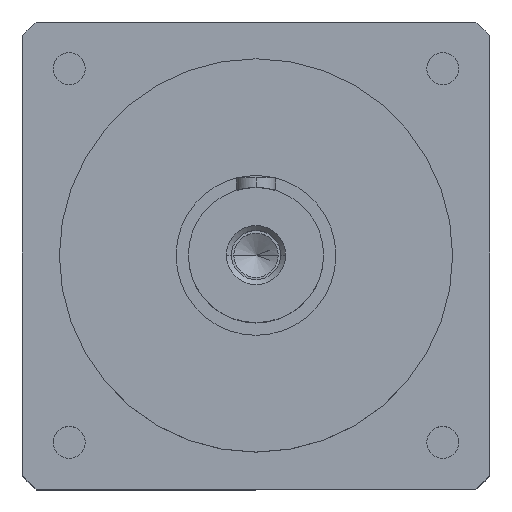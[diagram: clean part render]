
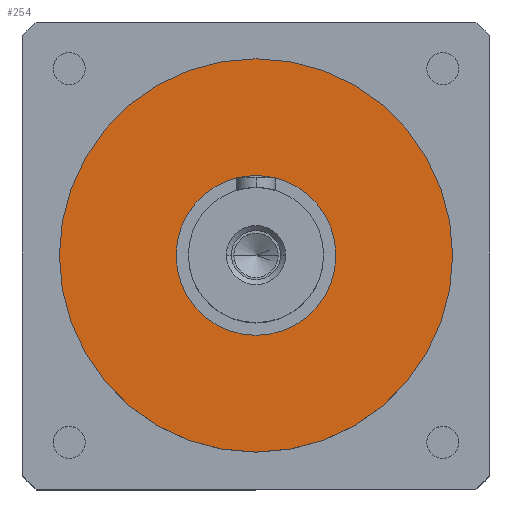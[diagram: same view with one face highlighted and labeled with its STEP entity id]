
A CAD part, top view. The second image highlights one B-rep face of the part: STEP entity #254.
In plain terms, the highlighted planar face has unit normal (0, 0, 1).
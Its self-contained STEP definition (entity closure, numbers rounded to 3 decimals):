
#58 = AXIS2_PLACEMENT_3D ( 'NONE', #2799, #927, #3105 ) ;
#66 = ORIENTED_EDGE ( 'NONE', *, *, #1885, .T. ) ;
#187 = CARTESIAN_POINT ( 'NONE',  ( 0., 0., 20. ) ) ;
#254 = ADVANCED_FACE ( 'NONE', ( #922, #3421 ), #1848, .F. ) ;
#286 = ORIENTED_EDGE ( 'NONE', *, *, #3230, .F. ) ;
#465 = VERTEX_POINT ( 'NONE', #2254 ) ;
#472 = VERTEX_POINT ( 'NONE', #1965 ) ;
#495 = DIRECTION ( 'NONE',  ( -1., 0., 0. ) ) ;
#922 = FACE_BOUND ( 'NONE', #3382, .T. ) ;
#927 = DIRECTION ( 'NONE',  ( 0., 0., -1. ) ) ;
#977 = AXIS2_PLACEMENT_3D ( 'NONE', #1508, #4024, #2156 ) ;
#1007 = DIRECTION ( 'NONE',  ( 0., 0., -1. ) ) ;
#1016 = VERTEX_POINT ( 'NONE', #3178 ) ;
#1059 = CIRCLE ( 'NONE', #1572, 32.5 ) ;
#1100 = EDGE_LOOP ( 'NONE', ( #286, #1266 ) ) ;
#1156 = EDGE_CURVE ( 'NONE', #1500, #472, #1203, .T. ) ;
#1159 = CARTESIAN_POINT ( 'NONE',  ( 0., 0., 20. ) ) ;
#1203 = CIRCLE ( 'NONE', #3689, 80. ) ;
#1266 = ORIENTED_EDGE ( 'NONE', *, *, #1156, .F. ) ;
#1482 = DIRECTION ( 'NONE',  ( -1., 0., 0. ) ) ;
#1485 = CARTESIAN_POINT ( 'NONE',  ( 80., 0., 20. ) ) ;
#1500 = VERTEX_POINT ( 'NONE', #1485 ) ;
#1508 = CARTESIAN_POINT ( 'NONE',  ( 0., 0., 20. ) ) ;
#1572 = AXIS2_PLACEMENT_3D ( 'NONE', #187, #2363, #495 ) ;
#1818 = AXIS2_PLACEMENT_3D ( 'NONE', #1159, #3358, #1482 ) ;
#1848 = PLANE ( 'NONE',  #977 ) ;
#1885 = EDGE_CURVE ( 'NONE', #1016, #465, #1059, .T. ) ;
#1965 = CARTESIAN_POINT ( 'NONE',  ( -80., 0., 20. ) ) ;
#2156 = DIRECTION ( 'NONE',  ( -1., 0., 0. ) ) ;
#2254 = CARTESIAN_POINT ( 'NONE',  ( -32.5, 0., 20. ) ) ;
#2363 = DIRECTION ( 'NONE',  ( 0., 0., -1. ) ) ;
#2799 = CARTESIAN_POINT ( 'NONE',  ( 0., 0., 20. ) ) ;
#2868 = CARTESIAN_POINT ( 'NONE',  ( 0., 0., 20. ) ) ;
#3019 = ORIENTED_EDGE ( 'NONE', *, *, #3045, .T. ) ;
#3045 = EDGE_CURVE ( 'NONE', #465, #1016, #4031, .T. ) ;
#3105 = DIRECTION ( 'NONE',  ( -1., 0., 0. ) ) ;
#3178 = CARTESIAN_POINT ( 'NONE',  ( 32.5, 0., 20. ) ) ;
#3181 = DIRECTION ( 'NONE',  ( -1., 0., 0. ) ) ;
#3230 = EDGE_CURVE ( 'NONE', #472, #1500, #3538, .T. ) ;
#3358 = DIRECTION ( 'NONE',  ( 0., 0., -1. ) ) ;
#3382 = EDGE_LOOP ( 'NONE', ( #3019, #66 ) ) ;
#3421 = FACE_OUTER_BOUND ( 'NONE', #1100, .T. ) ;
#3538 = CIRCLE ( 'NONE', #58, 80. ) ;
#3689 = AXIS2_PLACEMENT_3D ( 'NONE', #2868, #1007, #3181 ) ;
#4024 = DIRECTION ( 'NONE',  ( 0., 0., -1. ) ) ;
#4031 = CIRCLE ( 'NONE', #1818, 32.5 ) ;
